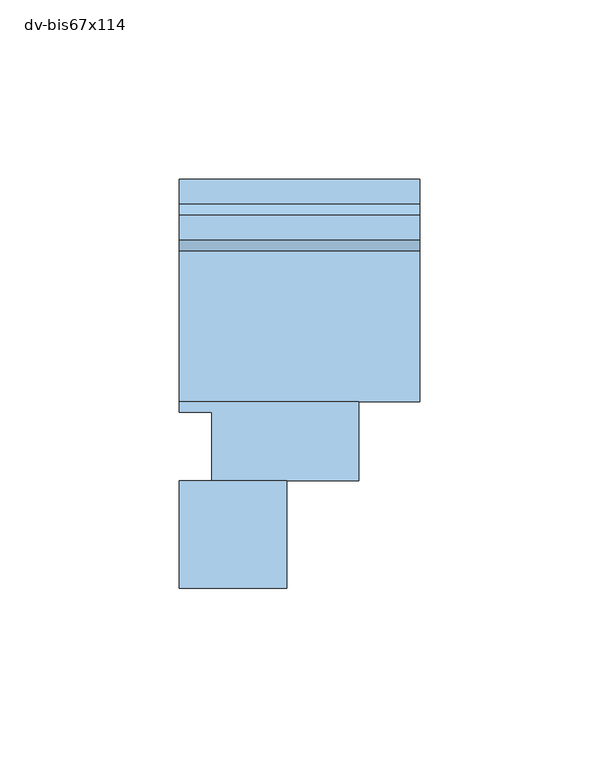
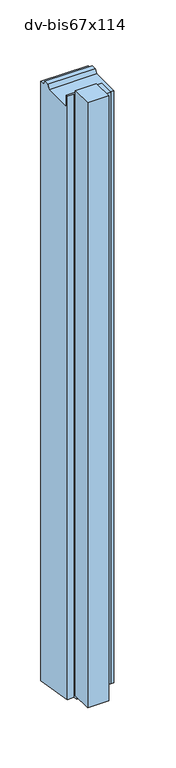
"""IFC4 building model written with IfcOpenShell, lengths in millimetres: window geometry, NLRS_30_WIN_zijstijl_sh_gen_TOBA-JM : dv-bis67x114."""

from ifc_helpers import new_model, si_unit, origin, place, context, project, spatial, faceted_brep, source, transform, mapped, element, save


def dv_bis67x114_4c47c3ec(model_context):
    return source(origin(), model_context, "Body", "Brep", [
        faceted_brep([(50.0, -84.0, 950.0), (50.0, -84.0, 67.0), (50.0, -72.0, 67.0), (50.0, -72.0, 51.0), (50.0, -62.0, 49.2361111), (50.0, -62.0, 933.0), (50.0, -62.0, 950.0), (67.0, -62.0, 49.2361111), (67.0, -62.0, 933.0), (67.0, 0.0, 38.3), (67.0, 0.0, 933.0), (67.0, -7.0, 933.0), (67.0, -10.0, 939.0), (67.0, -17.0, 939.0), (67.0, -20.0, 933.0), (0.0, 0.0, 38.3), (0.0, 0.0, 933.0), (0.0, -62.0, 950.0), (0.0, -62.0, 933.0), (0.0, -20.0, 933.0), (0.0, -17.0, 939.0), (0.0, -10.0, 939.0), (0.0, -7.0, 933.0), (0.0, -65.0, 49.7652778), (0.0, -65.0, 950.0), (9.0, -65.0, 49.7652778), (9.0, -65.0, 950.0), (9.0, -72.0, 51.0), (9.0, -72.0, 67.0), (9.0, -84.0, 67.0), (9.0, -84.0, 950.0), (0.0, -84.0, 67.0), (0.0, -84.0, 970.0), (30.0, -84.0, 970.0), (30.0, -84.0, 950.0), (0.0, -114.0, 67.0), (0.0, -114.0, 970.0), (30.0, -114.0, 67.0), (30.0, -114.0, 970.0), (30.0, -84.0, 67.0)], [[[0, 1, 2, 3, 4, 5, 6]], [[5, 4, 7, 8]], [[8, 7, 9, 10, 11, 12, 13, 14]], [[10, 9, 15, 16]], [[17, 18, 19, 20, 21, 22, 16, 15, 23, 24]], [[24, 23, 25, 26]], [[26, 25, 27, 28, 29, 30]], [[30, 29, 31, 32, 33, 34]], [[32, 31, 35, 36]], [[36, 35, 37, 38]], [[27, 25, 23, 15, 9, 7, 4, 3]], [[3, 2, 28, 27]], [[2, 1, 39, 37, 35, 31, 29, 28]], [[34, 39, 1, 0]], [[38, 37, 39, 34, 33]], [[36, 38, 33, 32]], [[17, 24, 26, 30, 34, 0, 6]], [[6, 5, 18, 17]], [[19, 18, 5, 8, 14]], [[14, 13, 20, 19]], [[13, 12, 21, 20]], [[12, 11, 22, 21]], [[11, 10, 16, 22]]]),
    ])


if __name__ == "__main__":
    model = new_model("IFC4")
    model_context = context("Model", 3, world=origin())
    ifc_project = project(units=[si_unit("LENGTHUNIT", "METRE", prefix="MILLI")], contexts=[model_context])
    site = spatial("IfcSite", under=ifc_project)
    building = spatial("IfcBuilding", under=site)
    placement = place(None, origin())
    dv_bis67x114_shape = dv_bis67x114_4c47c3ec(model_context)
    element("IfcWindow", 1, ObjectType="NLRS_30_WIN_zijstijl_sh_gen_TOBA-JM : dv-bis67x114", at=placement, inside=building, context=model_context, shape_type="MappedRepresentation", body=[
        mapped(dv_bis67x114_shape, transform((0.0, 0.0, 0.0), x_axis=(1.0, 0.0, 0.0), y_axis=(0.0, 1.0, 0.0), z_axis=(0.0, 0.0, 1.0))),
    ])
    save(model, "model.ifc")
